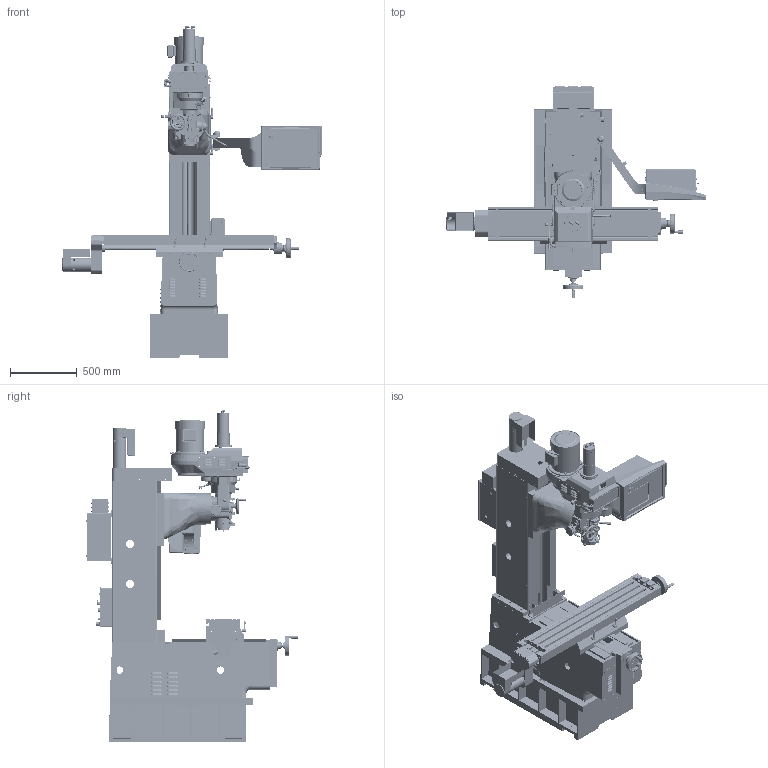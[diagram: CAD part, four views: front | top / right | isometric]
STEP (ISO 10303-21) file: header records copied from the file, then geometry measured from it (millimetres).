
FILE_DESCRIPTION( ( 'Unknown' ), '1' );
FILE_NAME( '//SERVERENG2/Data/DRAWINGS/Simplified Machine Assemblies/DPMSX2/24000-7 DPMSX2.stp', 'Unknown', ( 'Unknown' ), ( 'Unknown' ), 'PSStep 14.0', 'Unknown', ' ' );
FILE_SCHEMA( ( 'AUTOMOTIVE_DESIGN { 1 0 10303 214 1 1 1 1 }' ) );
Length unit declared in the file: millimetre
Products named in the file (237): Assem1; -oa0
Assembly tree (236 placements, depth 2):
  Assem1
    -oa0
    -oa0
    -oa0
    -oa0
    -oa0
    -oa0
    -oa0
    -oa0
    -oa0
    -oa0
    -oa0
    -oa0
    -oa0
    -oa0
    -oa0
    -oa0
    -oa0
    -oa0
    -oa0
    -oa0
    -oa0
    -oa0
    -oa0
    -oa0
    -oa0
    -oa0
    -oa0
    -oa0
    -oa0
    -oa0
    -oa0
    -oa0
    -oa0
    -oa0
    -oa0
    -oa0
    -oa0
    -oa0
    -oa0
    -oa0
    -oa0
    -oa0
    -oa0
    -oa0
    -oa0
    -oa0
    -oa0
    -oa0
    -oa0
    -oa0
    -oa0
    -oa0
    -oa0
    -oa0
    -oa0
    -oa0
    -oa0
    -oa0
    -oa0
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Bounding box: 1943.45 x 1585.05 x 2481.62 mm (x, y, z)
Surface area: 20656790.2 mm2 (no closed solid volume)
Topology: 0 solids, 3171 shells, 3172 faces, 20992 edges, 20389 vertices
Faces by surface type: plane 1585, cylinder 1060, cone 162, sphere 124, bspline 123, torus 110, extrusion 4, revolution 4
Full cylindrical faces by diameter (mm): 5 x2, 5.588 x1, 6.411 x1, 7.036 x2, 7.112 x2, 7.5 x2, 7.62 x1, 7.874 x2, 7.925 x1, 7.938 x1, 8 x1, 9.095 x6, 9.3 x1, 9.5 x5, 9.525 x6, 9.652 x2, 9.728 x1, 9.754 x2, 10 x5, 10.16 x2, 10.465 x1, 10.668 x4, 10.678 x1, 10.82 x1, 11 x6, 11.113 x2, 11.303 x1, 11.325 x2, 11.326 x9, 11.4 x4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
Entity records: 238805 total; most frequent: CARTESIAN_POINT 77230, DIRECTION 33339, ORIENTED_EDGE 20215, EDGE_CURVE 20215, VERTEX_POINT 20215, AXIS2_PLACEMENT_3D 11247, VECTOR 10841, LINE 10837
